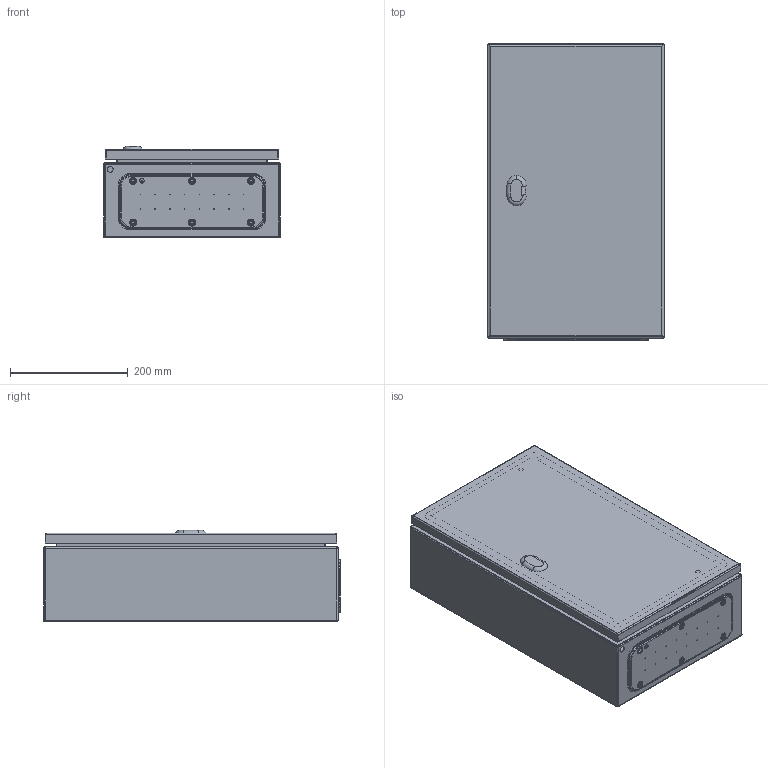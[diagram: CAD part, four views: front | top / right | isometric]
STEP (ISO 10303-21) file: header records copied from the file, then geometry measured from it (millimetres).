
FILE_DESCRIPTION (( 'STEP AP203' ), '1' );
FILE_NAME ('0300x0500x0150 dx.step', '2021-09-07T06:40:11', ( '' ), ( '' ), 'SwSTEP 2.0', 'SolidWorks 2021', '' );
FILE_SCHEMA (( 'CONFIG_CONTROL_DESIGN' ));
Length unit declared in the file: millimetre
Products named in the file (7): AR_ECOR_montaggio_porta_singola_0300x0500; 0300x0500x0150 dx; AR_ECOR_flangia IC_02; AR_ECOR_involucro_0300x0500x0150; AR_ECOR_chiusura_std_STD; AR_ECOR_Piastra_05; AR_ECOR_porta_singola_0300x0500
Assembly tree (6 placements, depth 3):
  0300x0500x0150 dx
    AR_ECOR_involucro_0300x0500x0150
    AR_ECOR_montaggio_porta_singola_0300x0500
      AR_ECOR_porta_singola_0300x0500
      AR_ECOR_chiusura_std_STD
    AR_ECOR_flangia IC_02
    AR_ECOR_Piastra_05
Bounding box: 300 x 504 x 155 mm (x, y, z)
Volume: 1080869.3 mm3; surface area: 1471295.4 mm2
Topology: 5 solids, 5 shells, 604 faces, 1511 edges, 942 vertices
Faces by surface type: cylinder 302, plane 177, cone 48, torus 33, bspline 28, sphere 16
Entity records: 19808 total; most frequent: CARTESIAN_POINT 4258, DIRECTION 3266, ORIENTED_EDGE 2982, EDGE_CURVE 1491, AXIS2_PLACEMENT_3D 1285, VERTEX_POINT 942, EDGE_LOOP 785, CIRCLE 699
